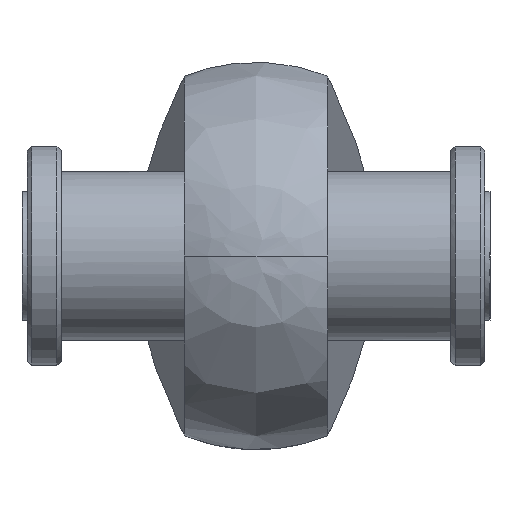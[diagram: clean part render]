
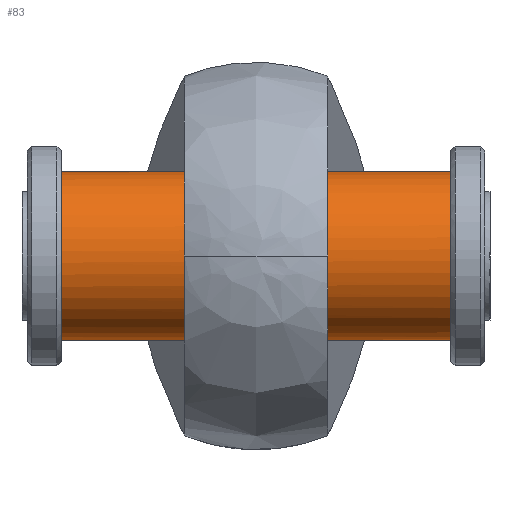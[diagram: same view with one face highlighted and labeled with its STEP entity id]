
A CAD part, left-side view. The second image highlights one B-rep face of the part: STEP entity #83.
In plain terms, the highlighted cylindrical face has radius 10 mm (diameter 20 mm), a full revolution.
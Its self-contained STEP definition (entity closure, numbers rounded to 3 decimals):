
#83=ADVANCED_FACE('',(#157),#1214,.T.);
#157=FACE_OUTER_BOUND('',#238,.T.);
#238=EDGE_LOOP('',(#506,#507,#508,#509));
#506=ORIENTED_EDGE('',*,*,#774,.T.);
#507=ORIENTED_EDGE('',*,*,#776,.T.);
#508=ORIENTED_EDGE('',*,*,#775,.T.);
#509=ORIENTED_EDGE('',*,*,#776,.F.);
#774=EDGE_CURVE('',#1128,#1128,#983,.T.);
#775=EDGE_CURVE('',#1129,#1129,#984,.T.);
#776=EDGE_CURVE('',#1128,#1129,#897,.T.);
#897=B_SPLINE_CURVE_WITH_KNOTS('',1,(#2248,#2249),.UNSPECIFIED.,.F.,.F.,
(2,2),(4.747,51.019),.UNSPECIFIED.);
#983=(
BOUNDED_CURVE()
B_SPLINE_CURVE(2,(#2230,#2231,#2232,#2233,#2234,#2235,#2236,#2237,#2238),
 .UNSPECIFIED.,.T.,.F.)
B_SPLINE_CURVE_WITH_KNOTS((3,2,2,2,3),(0.,15.708,31.416,
47.124,62.832),.UNSPECIFIED.)
CURVE()
GEOMETRIC_REPRESENTATION_ITEM()
RATIONAL_B_SPLINE_CURVE((1.,0.707,1.,0.707,1.,0.707,
1.,0.707,1.))
REPRESENTATION_ITEM('')
);
#984=(
BOUNDED_CURVE()
B_SPLINE_CURVE(2,(#2239,#2240,#2241,#2242,#2243,#2244,#2245,#2246,#2247),
 .UNSPECIFIED.,.T.,.F.)
B_SPLINE_CURVE_WITH_KNOTS((3,2,2,2,3),(0.,15.708,31.416,
47.124,62.832),.UNSPECIFIED.)
CURVE()
GEOMETRIC_REPRESENTATION_ITEM()
RATIONAL_B_SPLINE_CURVE((1.,0.707,1.,0.707,1.,0.707,
1.,0.707,1.))
REPRESENTATION_ITEM('')
);
#1128=VERTEX_POINT('',#2182);
#1129=VERTEX_POINT('',#2183);
#1214=CYLINDRICAL_SURFACE('',#1366,10.);
#1366=AXIS2_PLACEMENT_3D('',#2172,#1412,$);
#1412=DIRECTION('',(0.,-1.,0.));
#2172=CARTESIAN_POINT('',(0.,0.,0.));
#2182=CARTESIAN_POINT('',(10.,23.136,0.));
#2183=CARTESIAN_POINT('',(10.,-23.136,0.));
#2230=CARTESIAN_POINT('',(10.,23.136,0.));
#2231=CARTESIAN_POINT('',(10.,23.136,10.));
#2232=CARTESIAN_POINT('',(0.,23.136,10.));
#2233=CARTESIAN_POINT('',(-10.,23.136,10.));
#2234=CARTESIAN_POINT('',(-10.,23.136,0.));
#2235=CARTESIAN_POINT('',(-10.,23.136,-10.));
#2236=CARTESIAN_POINT('',(0.,23.136,-10.));
#2237=CARTESIAN_POINT('',(10.,23.136,-10.));
#2238=CARTESIAN_POINT('',(10.,23.136,0.));
#2239=CARTESIAN_POINT('',(10.,-23.136,0.));
#2240=CARTESIAN_POINT('',(10.,-23.136,-10.));
#2241=CARTESIAN_POINT('',(0.,-23.136,-10.));
#2242=CARTESIAN_POINT('',(-10.,-23.136,-10.));
#2243=CARTESIAN_POINT('',(-10.,-23.136,0.));
#2244=CARTESIAN_POINT('',(-10.,-23.136,10.));
#2245=CARTESIAN_POINT('',(0.,-23.136,10.));
#2246=CARTESIAN_POINT('',(10.,-23.136,10.));
#2247=CARTESIAN_POINT('',(10.,-23.136,0.));
#2248=CARTESIAN_POINT('',(10.,23.136,0.));
#2249=CARTESIAN_POINT('',(10.,-23.136,0.));
